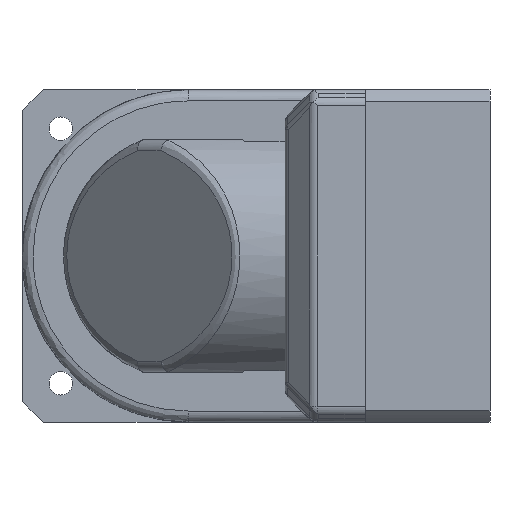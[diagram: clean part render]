
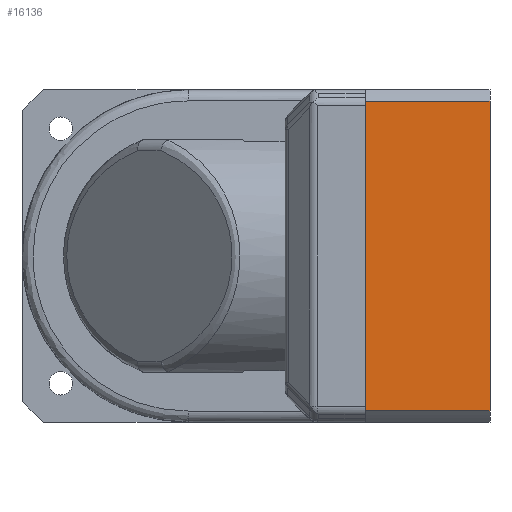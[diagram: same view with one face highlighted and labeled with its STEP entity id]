
A CAD part, front view. The second image highlights one B-rep face of the part: STEP entity #16136.
In plain terms, the highlighted planar face has unit normal (0, -1, 0).
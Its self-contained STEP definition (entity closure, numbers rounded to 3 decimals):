
#503 = CARTESIAN_POINT ( 'NONE',  ( 55.893, -60., -45. ) ) ;
#3239 = EDGE_CURVE ( 'NONE', #24345, #23658, #10800, .T. ) ;
#3251 = FACE_OUTER_BOUND ( 'NONE', #40073, .T. ) ;
#3680 = DIRECTION ( 'NONE',  ( 0., 0., -1. ) ) ;
#4305 = LINE ( 'NONE', #29463, #42845 ) ;
#5662 = CARTESIAN_POINT ( 'NONE',  ( 55.893, -60., 0. ) ) ;
#8369 = CARTESIAN_POINT ( 'NONE',  ( -60., -60., -45. ) ) ;
#9629 = VECTOR ( 'NONE', #32362, 1000. ) ;
#9850 = VERTEX_POINT ( 'NONE', #14499 ) ;
#9911 = EDGE_CURVE ( 'NONE', #9850, #38529, #21600, .T. ) ;
#10800 = LINE ( 'NONE', #35954, #9629 ) ;
#11938 = CARTESIAN_POINT ( 'NONE',  ( -60., -60., 0. ) ) ;
#14229 = AXIS2_PLACEMENT_3D ( 'NONE', #8369, #41966, #19615 ) ;
#14499 = CARTESIAN_POINT ( 'NONE',  ( -55.893, -60., 0. ) ) ;
#15852 = PLANE ( 'NONE',  #14229 ) ;
#16136 = ADVANCED_FACE ( 'NONE', ( #3251 ), #15852, .T. ) ;
#19615 = DIRECTION ( 'NONE',  ( 0., 0., -1. ) ) ;
#21600 = LINE ( 'NONE', #29848, #39098 ) ;
#21709 = ORIENTED_EDGE ( 'NONE', *, *, #38146, .T. ) ;
#23127 = VECTOR ( 'NONE', #41803, 1000. ) ;
#23658 = VERTEX_POINT ( 'NONE', #503 ) ;
#24050 = CARTESIAN_POINT ( 'NONE',  ( -55.893, -60., -45. ) ) ;
#24297 = LINE ( 'NONE', #11938, #23127 ) ;
#24345 = VERTEX_POINT ( 'NONE', #5662 ) ;
#25288 = EDGE_CURVE ( 'NONE', #24345, #9850, #24297, .T. ) ;
#28951 = ORIENTED_EDGE ( 'NONE', *, *, #9911, .T. ) ;
#29463 = CARTESIAN_POINT ( 'NONE',  ( 0., -60., -45. ) ) ;
#29848 = CARTESIAN_POINT ( 'NONE',  ( -55.893, -60., -45. ) ) ;
#32362 = DIRECTION ( 'NONE',  ( 0., 0., -1. ) ) ;
#35954 = CARTESIAN_POINT ( 'NONE',  ( 55.893, -60., 0. ) ) ;
#38146 = EDGE_CURVE ( 'NONE', #38529, #23658, #4305, .T. ) ;
#38529 = VERTEX_POINT ( 'NONE', #24050 ) ;
#39098 = VECTOR ( 'NONE', #3680, 1000. ) ;
#40073 = EDGE_LOOP ( 'NONE', ( #28951, #21709, #46658, #41140 ) ) ;
#40689 = DIRECTION ( 'NONE',  ( 1., 0., 0. ) ) ;
#41140 = ORIENTED_EDGE ( 'NONE', *, *, #25288, .T. ) ;
#41803 = DIRECTION ( 'NONE',  ( -1., 0., 0. ) ) ;
#41966 = DIRECTION ( 'NONE',  ( 0., -1., 0. ) ) ;
#42845 = VECTOR ( 'NONE', #40689, 1000. ) ;
#46658 = ORIENTED_EDGE ( 'NONE', *, *, #3239, .F. ) ;
